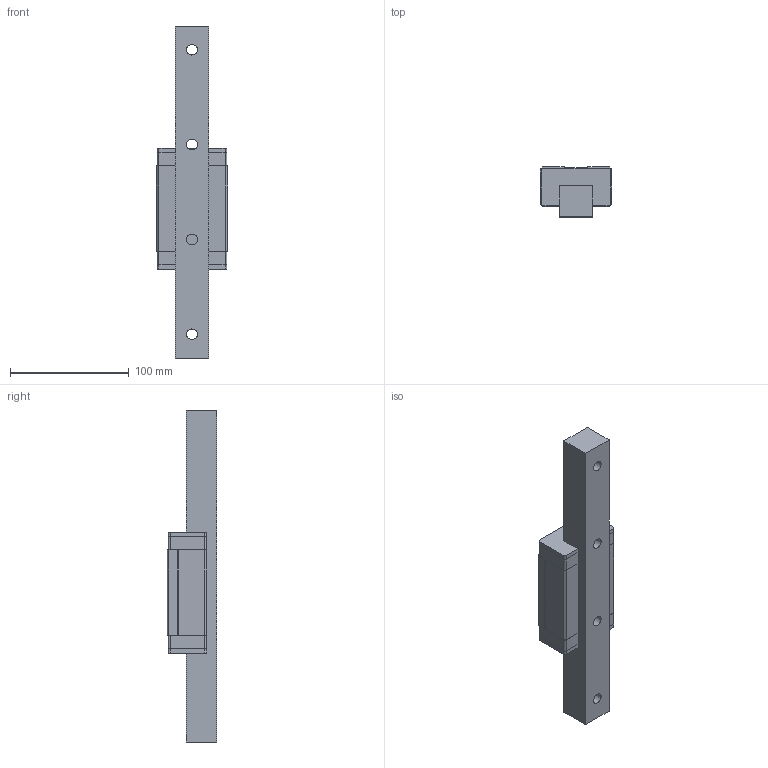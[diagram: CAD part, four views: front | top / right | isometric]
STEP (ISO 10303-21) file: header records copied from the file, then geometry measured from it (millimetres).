
FILE_DESCRIPTION((''),'2;1');
FILE_NAME('E:\PDF郪磁芞\DFS-B\DFS30B.STP','2018-01-31T12:47:22',(''),(''),'STEP Write','Mastercam V9 ... CNC Software, Inc.','');
FILE_SCHEMA(('CONFIG_CONTROL_DESIGN'));
Length unit declared in the file: millimetre
Bounding box: 60 x 42 x 280 mm (x, y, z)
Volume: 339698.8 mm3; surface area: 72084.4 mm2
Topology: 6 solids, 6 shells, 102 faces, 457 edges, 574 vertices
Faces by surface type: plane 74, cylinder 28
Full cylindrical faces by diameter (mm): 7.3 x4, 9 x4, 14 x4
Entity records: 4316 total; most frequent: CARTESIAN_POINT 955, DIRECTION 750, ORIENTED_EDGE 468, VECTOR 320, LINE 320, EDGE_CURVE 234, AXIS2_PLACEMENT_3D 215, TRIMMED_CURVE 199
